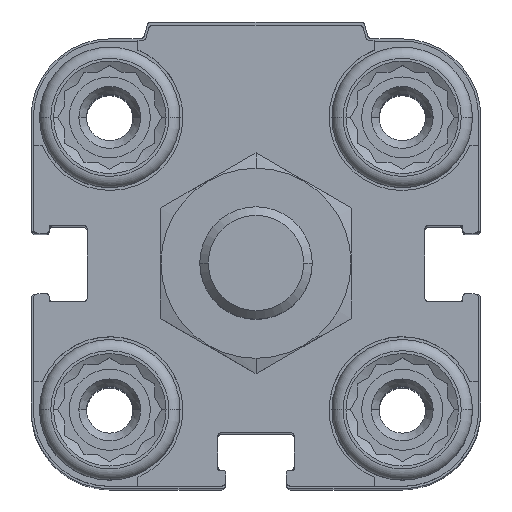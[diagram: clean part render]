
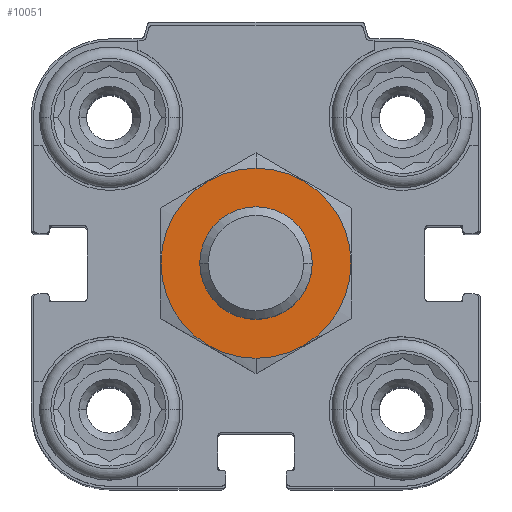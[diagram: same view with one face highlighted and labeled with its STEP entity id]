
A CAD part, top view. The second image highlights one B-rep face of the part: STEP entity #10051.
In plain terms, the highlighted planar face has unit normal (0, 0, 1).
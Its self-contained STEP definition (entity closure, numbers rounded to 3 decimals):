
#97 = ORIENTED_EDGE ( 'NONE', *, *, #10107, .T. ) ;
#1015 = CARTESIAN_POINT ( 'NONE',  ( 0., 0., 14.5 ) ) ;
#1070 = ORIENTED_EDGE ( 'NONE', *, *, #7219, .T. ) ;
#1117 = DIRECTION ( 'NONE',  ( 0., -1., 0. ) ) ;
#2166 = DIRECTION ( 'NONE',  ( 0., -1., 0. ) ) ;
#2537 = DIRECTION ( 'NONE',  ( 0., 0., -1. ) ) ;
#2990 = DIRECTION ( 'NONE',  ( 0., 0., -1. ) ) ;
#3486 = PLANE ( 'NONE',  #13803 ) ;
#3852 = CARTESIAN_POINT ( 'NONE',  ( 0., 8.45, 14.5 ) ) ;
#4365 = VERTEX_POINT ( 'NONE', #7228 ) ;
#5007 = AXIS2_PLACEMENT_3D ( 'NONE', #15439, #5402, #11225 ) ;
#5323 = EDGE_CURVE ( 'NONE', #6974, #6141, #16409, .T. ) ;
#5402 = DIRECTION ( 'NONE',  ( 0., 0., -1. ) ) ;
#5946 = CIRCLE ( 'NONE', #5007, 5. ) ;
#6141 = VERTEX_POINT ( 'NONE', #3852 ) ;
#6974 = VERTEX_POINT ( 'NONE', #18146 ) ;
#7219 = EDGE_CURVE ( 'NONE', #12575, #4365, #5946, .T. ) ;
#7228 = CARTESIAN_POINT ( 'NONE',  ( 0., 5., 14.5 ) ) ;
#7564 = CARTESIAN_POINT ( 'NONE',  ( 0., 0., 14.5 ) ) ;
#8074 = FACE_BOUND ( 'NONE', #16849, .T. ) ;
#8186 = CARTESIAN_POINT ( 'NONE',  ( 0., 0., 14.5 ) ) ;
#9317 = CARTESIAN_POINT ( 'NONE',  ( 0., -5., 14.5 ) ) ;
#9616 = AXIS2_PLACEMENT_3D ( 'NONE', #1015, #2537, #1117 ) ;
#10051 = ADVANCED_FACE ( 'NONE', ( #15258, #8074 ), #3486, .F. ) ;
#10107 = EDGE_CURVE ( 'NONE', #4365, #12575, #15637, .T. ) ;
#10788 = DIRECTION ( 'NONE',  ( 0., 0., -1. ) ) ;
#11225 = DIRECTION ( 'NONE',  ( 0., -1., 0. ) ) ;
#11318 = ORIENTED_EDGE ( 'NONE', *, *, #5323, .F. ) ;
#12575 = VERTEX_POINT ( 'NONE', #9317 ) ;
#13803 = AXIS2_PLACEMENT_3D ( 'NONE', #8186, #18229, #2166 ) ;
#14400 = AXIS2_PLACEMENT_3D ( 'NONE', #14441, #2990, #17610 ) ;
#14441 = CARTESIAN_POINT ( 'NONE',  ( 0., 0., 14.5 ) ) ;
#15258 = FACE_OUTER_BOUND ( 'NONE', #16474, .T. ) ;
#15434 = CIRCLE ( 'NONE', #9616, 8.45 ) ;
#15439 = CARTESIAN_POINT ( 'NONE',  ( 0., 0., 14.5 ) ) ;
#15637 = CIRCLE ( 'NONE', #14400, 5. ) ;
#15743 = ORIENTED_EDGE ( 'NONE', *, *, #17152, .F. ) ;
#16409 = CIRCLE ( 'NONE', #18867, 8.45 ) ;
#16474 = EDGE_LOOP ( 'NONE', ( #11318, #15743 ) ) ;
#16639 = DIRECTION ( 'NONE',  ( 0., -1., 0. ) ) ;
#16849 = EDGE_LOOP ( 'NONE', ( #97, #1070 ) ) ;
#17152 = EDGE_CURVE ( 'NONE', #6141, #6974, #15434, .T. ) ;
#17610 = DIRECTION ( 'NONE',  ( 0., -1., 0. ) ) ;
#18146 = CARTESIAN_POINT ( 'NONE',  ( 0., -8.45, 14.5 ) ) ;
#18229 = DIRECTION ( 'NONE',  ( 0., 0., -1. ) ) ;
#18867 = AXIS2_PLACEMENT_3D ( 'NONE', #7564, #10788, #16639 ) ;
